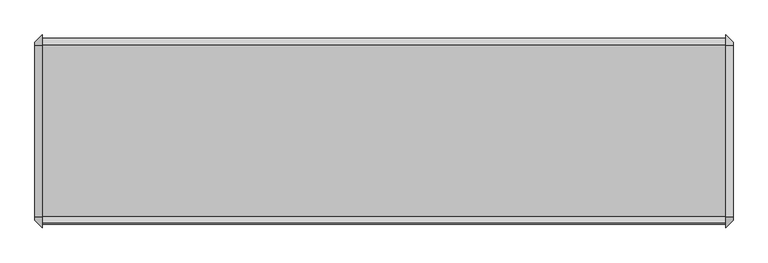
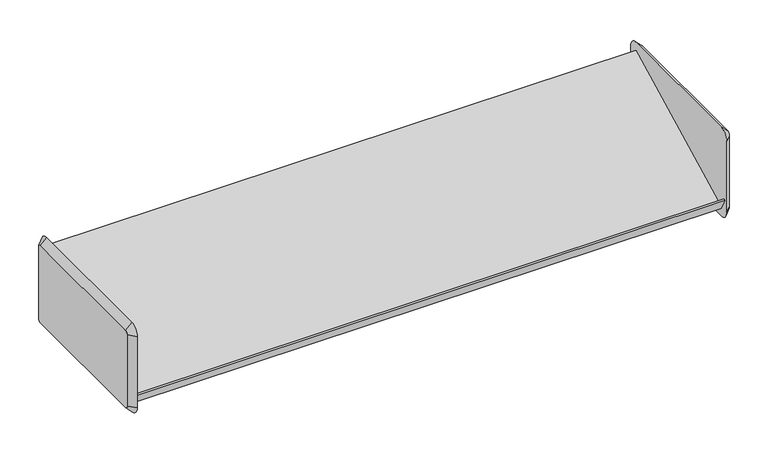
"""IFC4 building model written with IfcOpenShell, lengths in millimetres: furniture geometry."""

from ifc_helpers import new_model, si_unit, frame, origin, place, context, project, spatial, polyline, circle_curve, outline, extrude, source, transform, mapped, element, save
from ifc_brep_helpers import plane_surface, revolved_surface, advanced_brep


def furniture_4a924b53(model_context):
    return source(origin(), model_context, "Body", "SolidModel", [
        advanced_brep(
        [(485.6579955, 161.925, 1562.1), (485.6579955, -136.525, 1562.1), (485.6579955, -142.875, 1555.75), (485.6579955, -142.875, 1403.35), (485.6579955, -136.525, 1397.0), (485.6579955, 161.925, 1397.0), (485.6579955, 168.275, 1403.35), (485.6579955, 168.275, 1555.75), (472.9579955, 161.925, 1574.8), (472.9579955, 180.975, 1555.75), (472.9579955, 180.975, 1403.35), (472.9579955, 161.925, 1384.3), (472.9579955, -136.525, 1384.3), (472.9579955, -155.575, 1403.35), (472.9579955, -155.575, 1555.75), (472.9579955, -136.525, 1574.8)],
        [
            (0, 1),
            (1, 2, circle_curve(frame((485.6579955, -136.525, 1555.75), z_axis=(1.0, 2.0730084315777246e-12, -2.1529444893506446e-12), x_axis=(2.15291077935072e-12, 0.0, 1.0)), 6.35)),
            (2, 3),
            (3, 4, circle_curve(frame((485.6579955, -136.525, 1403.35), z_axis=(1.0, 2.0596857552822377e-12, 2.046363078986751e-12), x_axis=(2.059647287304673e-12, -1.0, 0.0)), 6.35)),
            (4, 5),
            (5, 6, circle_curve(frame((485.6579955, 161.925, 1403.35), z_axis=(1.0, 2.0889956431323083e-12, -2.0889956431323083e-12), x_axis=(-2.0890080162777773e-12, 0.0, -1.0)), 6.35)),
            (6, 7),
            (7, 0, circle_curve(frame((485.6579955, 161.925, 1555.75), z_axis=(1.0, 2.0783375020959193e-12, 2.003730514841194e-12), x_axis=(-2.0783313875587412e-12, 1.0, 0.0)), 6.35)),
            (8, 9, circle_curve(frame((472.9579955, 161.925, 1555.75), z_axis=(-1.0, -2.0783375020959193e-12, -2.003730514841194e-12), x_axis=(-2.0783313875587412e-12, 1.0, 0.0)), 19.05)),
            (9, 10),
            (10, 11, circle_curve(frame((472.9579955, 161.925, 1403.35), z_axis=(-1.0, -2.0889956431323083e-12, 2.0889956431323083e-12), x_axis=(-2.0890080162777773e-12, 0.0, -1.0)), 19.05)),
            (11, 12),
            (12, 13, circle_curve(frame((472.9579955, -136.525, 1403.35), z_axis=(-1.0, -2.0596857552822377e-12, -2.046363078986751e-12), x_axis=(2.059647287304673e-12, -1.0, 0.0)), 19.05)),
            (13, 14),
            (14, 15, circle_curve(frame((472.9579955, -136.525, 1555.75), z_axis=(-1.0, -2.0730084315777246e-12, 2.1529444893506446e-12), x_axis=(2.15291077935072e-12, 0.0, 1.0)), 19.05)),
            (15, 8),
            (15, 1),
            (0, 8),
            (14, 2),
            (13, 3),
            (12, 4),
            (11, 5),
            (10, 6),
            (9, 7),
        ],
        [
            plane_surface(frame((485.6579955, 12.7, 1479.55), z_axis=(1.0, 0.0, 0.0), x_axis=(0.0, -1.0, 0.0))),
            plane_surface(frame((472.9579955, 12.7, 1479.55), z_axis=(-1.0, 0.0, 0.0), x_axis=(0.0, -1.0, 0.0))),
            plane_surface(frame((472.9579955, 12.7, 1574.8), z_axis=(0.7071067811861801, 0.0, 0.707106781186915), x_axis=(0.0, -1.0, 0.0))),
            revolved_surface(polyline([(485.6579955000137, -136.525, 1562.0999999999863), (472.9579955, -136.525, 1574.8)]), (492.0079955, -136.525, 1555.75), (-1.0, -2.0730084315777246e-12, 2.1529444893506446e-12)),
            plane_surface(frame((472.9579955, -155.575, 1479.55), z_axis=(0.7071067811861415, -0.7071067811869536, 0.0), x_axis=(0.0, 0.0, -1.0))),
            revolved_surface(polyline([(485.6579955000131, -142.87499999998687, 1403.35), (472.9579955, -155.575, 1403.35)]), (492.0079955, -136.525, 1403.35), (-1.0, -2.0596857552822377e-12, -2.046363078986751e-12)),
            plane_surface(frame((472.9579955, 12.7, 1384.3), z_axis=(0.7071067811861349, 0.0, -0.7071067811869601), x_axis=(0.0, 1.0, 0.0))),
            revolved_surface(polyline([(485.6579955, 161.925, 1397.0), (472.9579954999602, 161.925, 1384.2999999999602)]), (492.0079955, 161.925, 1403.35), (-1.0, -2.0889956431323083e-12, 2.0889956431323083e-12)),
            plane_surface(frame((472.9579955, 180.975, 1479.55), z_axis=(0.7071067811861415, 0.7071067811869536, 0.0), x_axis=(0.0, 0.0, 1.0))),
            revolved_surface(polyline([(485.6579955, 168.27499999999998, 1555.75), (472.95799549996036, 180.97500000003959, 1555.75)]), (492.0079955, 161.925, 1555.75), (-1.0, -2.0783375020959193e-12, -2.003730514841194e-12)),
        ],
        [
            (0, [[1, 2, 3, 4, 5, 6, 7, 8]]),
            (1, [[9, 10, 11, 12, 13, 14, 15, 16]]),
            (2, [[-16, 17, -1, 18]]),
            (3, [[-15, 19, -2, -17]]),
            (4, [[-14, 20, -3, -19]]),
            (5, [[-13, 21, -4, -20]]),
            (6, [[-12, 22, -5, -21]]),
            (7, [[-11, 23, -6, -22]]),
            (8, [[-10, 24, -7, -23]]),
            (9, [[-9, -18, -8, -24]]),
        ],
    ),
        advanced_brep(
        [(-733.5420045, -136.525, 1562.1), (-733.5420045, 161.925, 1562.1), (-733.5420045, 168.275, 1555.75), (-733.5420045, 168.275, 1403.35), (-733.5420045, 161.925, 1397.0), (-733.5420045, -136.525, 1397.0), (-733.5420045, -142.875, 1403.35), (-733.5420045, -142.875, 1555.75), (-720.8420045, -136.525, 1574.8), (-720.8420045, -155.575, 1555.75), (-720.8420045, -155.575, 1403.35), (-720.8420045, -136.525, 1384.3), (-720.8420045, 161.925, 1384.3), (-720.8420045, 180.975, 1403.35), (-720.8420045, 180.975, 1555.75), (-720.8420045, 161.925, 1574.8)],
        [
            (0, 1),
            (1, 2, circle_curve(frame((-733.5420045, 161.925, 1555.75), z_axis=(-1.0, 0.0, 0.0), x_axis=(0.0, 0.0, 1.0)), 6.35)),
            (2, 3),
            (3, 4, circle_curve(frame((-733.5420045, 161.925, 1403.35), z_axis=(-1.0, 0.0, 0.0), x_axis=(0.0, 1.0, 0.0)), 6.35)),
            (4, 5),
            (5, 6, circle_curve(frame((-733.5420045, -136.525, 1403.35), z_axis=(-1.0, 0.0, 0.0), x_axis=(0.0, 0.0, -1.0)), 6.35)),
            (6, 7),
            (7, 0, circle_curve(frame((-733.5420045, -136.525, 1555.75), z_axis=(-1.0, 0.0, 0.0), x_axis=(0.0, -1.0, 0.0)), 6.35)),
            (8, 9, circle_curve(frame((-720.8420045, -136.525, 1555.75), z_axis=(1.0, 0.0, 0.0), x_axis=(0.0, -1.0, 0.0)), 19.05)),
            (9, 10),
            (10, 11, circle_curve(frame((-720.8420045, -136.525, 1403.35), z_axis=(1.0, 0.0, 0.0), x_axis=(0.0, 0.0, -1.0)), 19.05)),
            (11, 12),
            (12, 13, circle_curve(frame((-720.8420045, 161.925, 1403.35), z_axis=(1.0, 0.0, 0.0), x_axis=(0.0, 1.0, 0.0)), 19.05)),
            (13, 14),
            (14, 15, circle_curve(frame((-720.8420045, 161.925, 1555.75), z_axis=(1.0, 0.0, 0.0), x_axis=(0.0, 0.0, 1.0)), 19.05)),
            (15, 8),
            (15, 1),
            (0, 8),
            (14, 2),
            (13, 3),
            (12, 4),
            (11, 5),
            (10, 6),
            (9, 7),
        ],
        [
            plane_surface(frame((-733.5420045, 12.7, 1479.55), z_axis=(-1.0, 0.0, 0.0), x_axis=(0.0, -1.0, 0.0))),
            plane_surface(frame((-720.8420045, 12.7, 1479.55), z_axis=(1.0, 0.0, 0.0), x_axis=(0.0, -1.0, 0.0))),
            plane_surface(frame((-720.8420045, 12.7, 1574.8), z_axis=(-0.7071067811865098, 0.0, 0.7071067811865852), x_axis=(0.0, 1.0, 0.0))),
            revolved_surface(polyline([(-733.5420045, 161.925, 1562.1), (-720.8420045, 161.925, 1574.8)]), (-739.8920045, 161.925, 1555.75), (1.0, 0.0, 0.0)),
            plane_surface(frame((-720.8420045, 180.975, 1479.55), z_axis=(-0.7071067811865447, 0.7071067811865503, 0.0), x_axis=(0.0, 0.0, -1.0))),
            revolved_surface(polyline([(-733.5420045, 168.27500000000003, 1403.35), (-720.8420045, 180.975, 1403.35)]), (-739.8920045, 161.925, 1403.35), (1.0, 0.0, 0.0)),
            plane_surface(frame((-720.8420045, 12.7, 1384.3), z_axis=(-0.7071067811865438, 0.0, -0.7071067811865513), x_axis=(0.0, -1.0, 0.0))),
            revolved_surface(polyline([(-733.5420045, -136.525, 1397.0), (-720.8420045, -136.525, 1384.3)]), (-739.8920045, -136.525, 1403.35), (1.0, 0.0, 0.0)),
            plane_surface(frame((-720.8420045, -155.575, 1479.55), z_axis=(-0.7071067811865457, -0.7071067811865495, 0.0), x_axis=(0.0, 0.0, 1.0))),
            revolved_surface(polyline([(-733.5420045, -142.87500000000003, 1555.75), (-720.8420045, -155.575, 1555.75)]), (-739.8920045, -136.525, 1555.75), (1.0, 0.0, 0.0)),
        ],
        [
            (0, [[1, 2, 3, 4, 5, 6, 7, 8]]),
            (1, [[9, 10, 11, 12, 13, 14, 15, 16]]),
            (2, [[-16, 17, -1, 18]]),
            (3, [[-15, 19, -2, -17]]),
            (4, [[-14, 20, -3, -19]]),
            (5, [[-13, 21, -4, -20]]),
            (6, [[-12, 22, -5, -21]]),
            (7, [[-11, 23, -6, -22]]),
            (8, [[-10, 24, -7, -23]]),
            (9, [[-9, -18, -8, -24]]),
        ],
    ),
        extrude(outline(polyline([(-137.2094993, 1401.2179666), (-149.845093, 1425.6467844), (-147.0173828, 1427.0907216), (-135.8404765, 1405.4820334), (162.5893131, 1557.8717194), (175.2453599, 1534.2470972), (172.4171401, 1532.8028998), (161.2606869, 1553.6282806), (-137.2094993, 1401.2179666)])), frame((-720.8420045, 0.0, 0.0), z_axis=(1.0, 0.0, 0.0), x_axis=(0.0, 1.0, 0.0)), (0.0, 0.0, 1.0), 1193.8),
    ])


if __name__ == "__main__":
    model = new_model("IFC4")
    model_context = context("Model", 3, world=origin())
    ifc_project = project(units=[si_unit("LENGTHUNIT", "METRE", prefix="MILLI")], contexts=[model_context])
    site = spatial("IfcSite", under=ifc_project)
    building = spatial("IfcBuilding", under=site)
    placement = place(None, origin())
    furniture_shape = furniture_4a924b53(model_context)
    element("IfcFurniture", 1, ObjectType="HermanMiller_ActionOffice_A3220_B-StyleStorageDisplay : Display 13\"D x 48\"W", at=placement, inside=building, context=model_context, shape_type="MappedRepresentation", body=[
        mapped(furniture_shape, transform((0.0, 0.0, 0.0), x_axis=(1.0, 0.0, 0.0), y_axis=(0.0, 1.0, 0.0), z_axis=(0.0, 0.0, 1.0))),
    ])
    save(model, "model.ifc")
